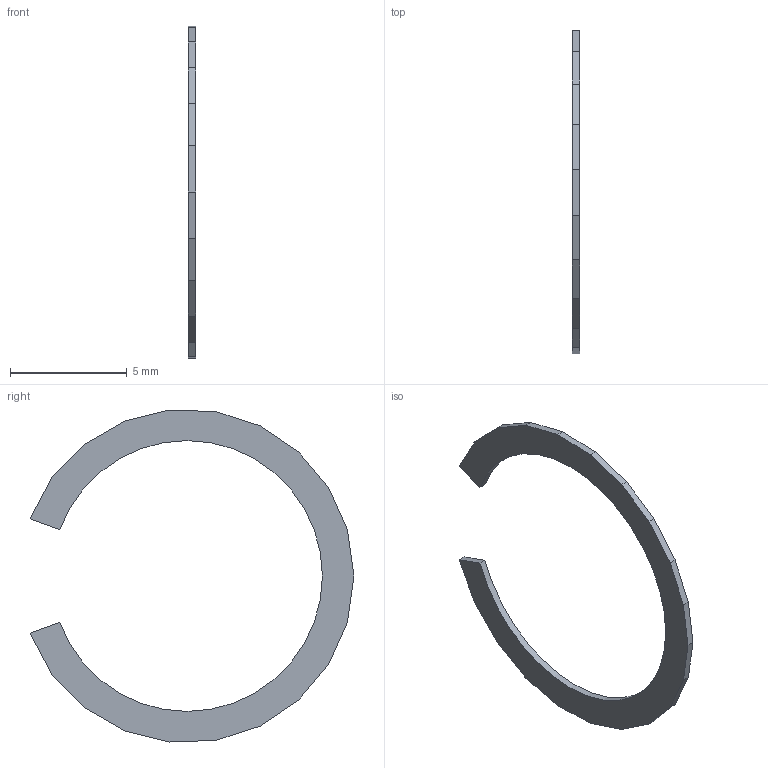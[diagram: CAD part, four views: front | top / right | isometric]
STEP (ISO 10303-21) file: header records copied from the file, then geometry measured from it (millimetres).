
FILE_DESCRIPTION(('Open CASCADE Model'),'2;1');
FILE_NAME('B3_R12_bush_boundary_C_clip','2026-09-28T18:17:14',('Author') ,('Open CASCADE'),'Open CASCADE STEP processor 7.9','build123d', 'Unknown');
FILE_SCHEMA(('AUTOMOTIVE_DESIGN { 1 0 10303 214 1 1 1 1 }'));
Length unit declared in the file: millimetre
Products named in the file (1): B3_R12_bush_boundary_C_clip
Bounding box: 0.3 x 13.87 x 14.22 mm (x, y, z)
Volume: 14.1 mm3; surface area: 116.4 mm2
Topology: 1 solids, 1 shells, 25 faces, 69 edges, 46 vertices
Faces by surface type: plane 24, cylinder 1
Entity records: 1704 total; most frequent: CARTESIAN_POINT 287, DIRECTION 258, LINE 201, VECTOR 201, ORIENTED_EDGE 138, PCURVE 138, DEFINITIONAL_REPRESENTATION 138, EDGE_CURVE 69
